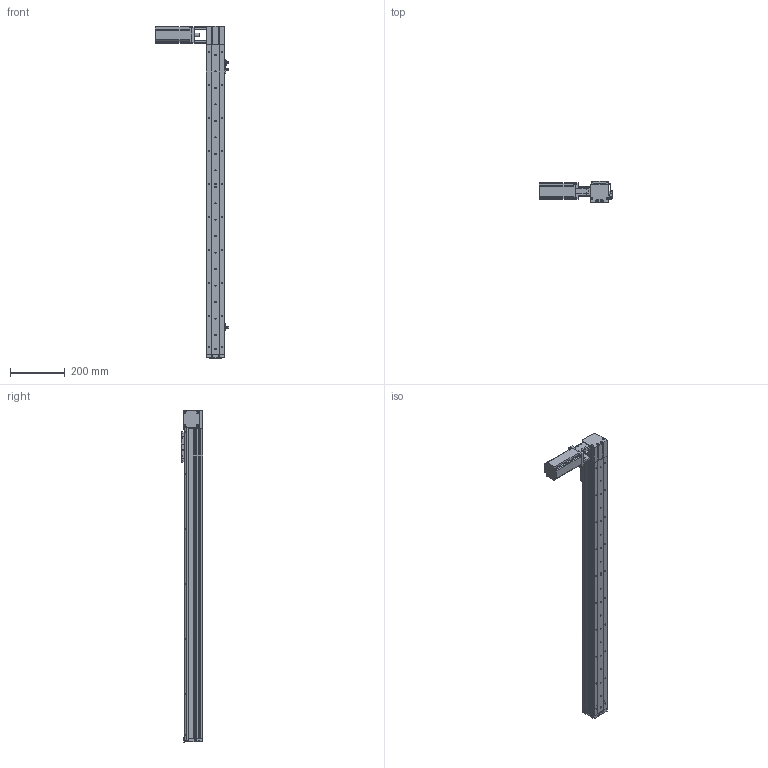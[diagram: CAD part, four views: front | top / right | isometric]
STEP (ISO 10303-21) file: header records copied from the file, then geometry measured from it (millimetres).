
FILE_DESCRIPTION (( 'STEP AP214' ), '1' );
FILE_NAME ('KSD68BS-S950-MLT-CR.STEP', '2019-11-08T05:23:49', ( '微软用户' ), ( '微软中国' ), 'SwSTEP 2.0', 'SolidWorks 2014', '' );
FILE_SCHEMA (( 'AUTOMOTIVE_DESIGN' ));
Length unit declared in the file: millimetre
Products named in the file (13): 感应片68宽全封闭; U倰嫖萇EEㄜSX672; 台达ECMA－C20604AS伺服电机（400W); KSD68BS 950行程底板全封闭; KSD68BS-S950-MLT-CR; 100遵鎮湛假蚾啣1; KSD68BS 950行程盖板全封闭; 68遵裔啣揤啣1; 68宽单导轨全封闭丝杆传动安装板1防护罩; KSD68BS 950行程侧板全封闭; 68宽单导轨全封闭同步带端板; 68单导轨全封闭同步带电机座右; 68单导轨全封闭同步带安装板
Assembly tree (16 placements, depth 2):
  KSD68BS-S950-MLT-CR
    KSD68BS 950行程底板全封闭
    台达ECMA－C20604AS伺服电机（400W)
    U倰嫖萇EEㄜSX672  x3
    感应片68宽全封闭
    68单导轨全封闭同步带安装板
    68单导轨全封闭同步带电机座右
    68宽单导轨全封闭同步带端板
    KSD68BS 950行程侧板全封闭  x2
    68宽单导轨全封闭丝杆传动安装板1防护罩
    68遵裔啣揤啣1  x2
    KSD68BS 950行程盖板全封闭
    100遵鎮湛假蚾啣1
Bounding box: 266.4 x 77 x 1208.1 mm (x, y, z)
Volume: 2417937.7 mm3; surface area: 902571 mm2
Topology: 17 solids, 17 shells, 1466 faces, 4178 edges, 2665 vertices
Faces by surface type: cylinder 694, plane 604, cone 168
Entity records: 46517 total; most frequent: CARTESIAN_POINT 7949, DIRECTION 6902, ORIENTED_EDGE 6600, EDGE_CURVE 3300, AXIS2_PLACEMENT_3D 2496, VERTEX_POINT 2163, VECTOR 1910, LINE 1910
